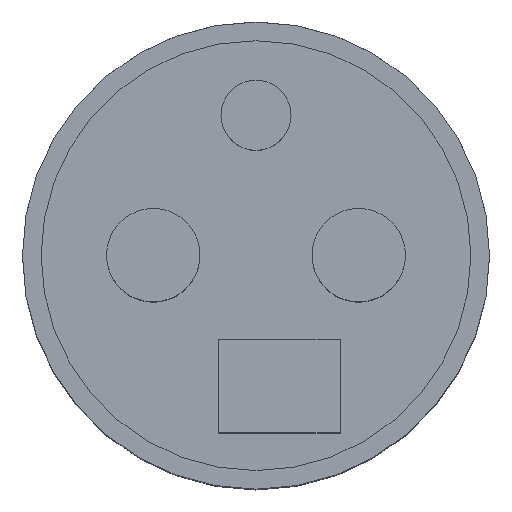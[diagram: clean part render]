
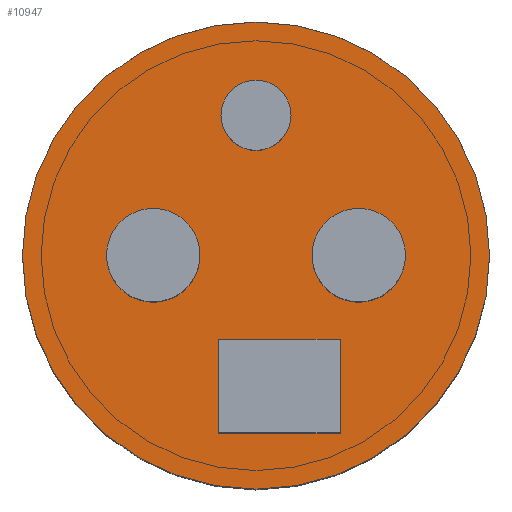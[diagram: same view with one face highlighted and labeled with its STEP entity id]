
A CAD part, top view. The second image highlights one B-rep face of the part: STEP entity #10947.
In plain terms, the highlighted planar face has unit normal (0, 0, 1).
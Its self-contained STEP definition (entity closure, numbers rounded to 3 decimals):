
#10796 = CYLINDRICAL_SURFACE('',#10797,50.);
#10797 = AXIS2_PLACEMENT_3D('',#10798,#10799,#10800);
#10798 = CARTESIAN_POINT('',(0.,0.,1845.));
#10799 = DIRECTION('',(0.,0.,1.));
#10800 = DIRECTION('',(1.,0.,-0.));
#10861 = EDGE_CURVE('',#10862,#10862,#10864,.T.);
#10862 = VERTEX_POINT('',#10863);
#10863 = CARTESIAN_POINT('',(50.,0.,1851.));
#10864 = SURFACE_CURVE('',#10865,(#10870,#10877),.PCURVE_S1.);
#10865 = CIRCLE('',#10866,50.);
#10866 = AXIS2_PLACEMENT_3D('',#10867,#10868,#10869);
#10867 = CARTESIAN_POINT('',(0.,0.,1851.));
#10868 = DIRECTION('',(0.,0.,1.));
#10869 = DIRECTION('',(1.,0.,-0.));
#10870 = PCURVE('',#10796,#10871);
#10871 = DEFINITIONAL_REPRESENTATION('',(#10872),#10876);
#10872 = LINE('',#10873,#10874);
#10873 = CARTESIAN_POINT('',(0.,6.));
#10874 = VECTOR('',#10875,1.);
#10875 = DIRECTION('',(1.,0.));
#10876 = ( GEOMETRIC_REPRESENTATION_CONTEXT(2) 
PARAMETRIC_REPRESENTATION_CONTEXT() REPRESENTATION_CONTEXT('2D SPACE',''
  ) );
#10877 = PCURVE('',#10878,#10883);
#10878 = PLANE('',#10879);
#10879 = AXIS2_PLACEMENT_3D('',#10880,#10881,#10882);
#10880 = CARTESIAN_POINT('',(0.,0.,1851.));
#10881 = DIRECTION('',(0.,0.,1.));
#10882 = DIRECTION('',(1.,0.,-0.));
#10883 = DEFINITIONAL_REPRESENTATION('',(#10884),#10888);
#10884 = CIRCLE('',#10885,50.);
#10885 = AXIS2_PLACEMENT_2D('',#10886,#10887);
#10886 = CARTESIAN_POINT('',(0.,0.));
#10887 = DIRECTION('',(1.,0.));
#10888 = ( GEOMETRIC_REPRESENTATION_CONTEXT(2) 
PARAMETRIC_REPRESENTATION_CONTEXT() REPRESENTATION_CONTEXT('2D SPACE',''
  ) );
#10947 = ADVANCED_FACE('',(#10948),#10878,.T.);
#10948 = FACE_BOUND('',#10949,.T.);
#10949 = EDGE_LOOP('',(#10950));
#10950 = ORIENTED_EDGE('',*,*,#10861,.T.);
